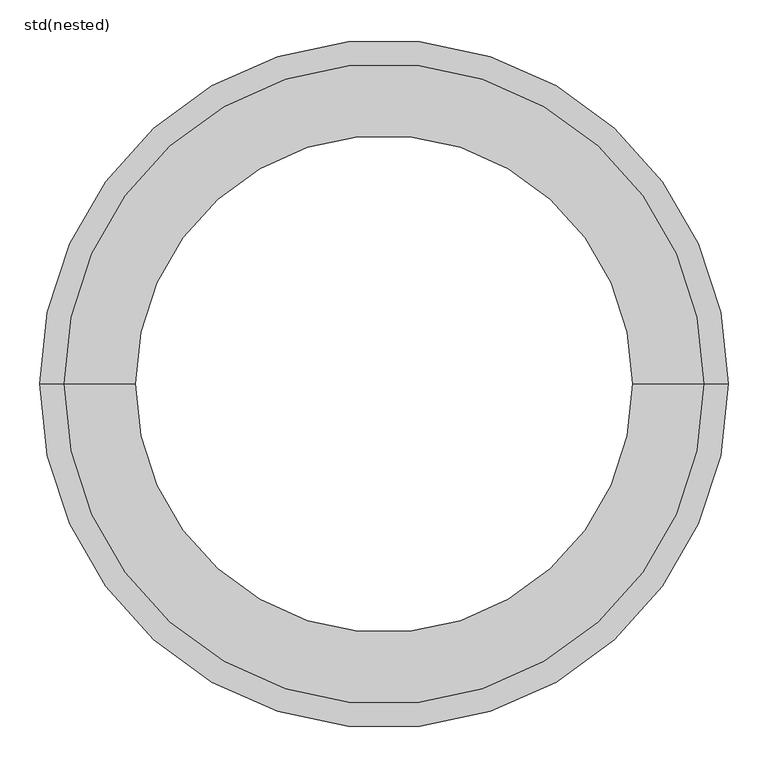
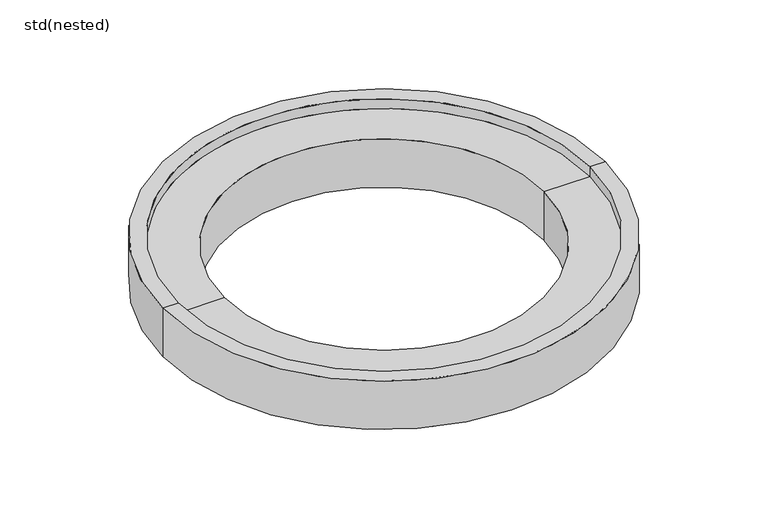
"""IFC4 building model written with IfcOpenShell, lengths in millimetres: unitary equipment geometry, ZZZ_do not use_ME_UN_concrete_bearing ring_ACO : std(nested)."""

from ifc_helpers import new_model, si_unit, frame, origin, place, context, project, spatial, polyline, circle_curve, source, transform, mapped, element, save
from ifc_brep_helpers import plane_surface, cylinder_surface, revolved_surface, advanced_brep


def std_nested_8366b505(model_context):
    return source(origin(), model_context, "Body", "AdvancedBrep", [
        advanced_brep(
        [(402.5, 0.0, -100.0), (-402.5, 0.0, -100.0), (-432.5, 0.0, -100.0), (432.5, 0.0, -100.0), (402.5, 0.0, -120.0), (-402.5, 0.0, -120.0), (312.5, 0.0, -120.0), (-312.5, 0.0, -120.0), (312.5, 0.0, -20.0), (-312.5, 0.0, -20.0), (402.5, 0.0, -20.0), (-402.5, 0.0, -20.0), (402.5, 0.0, 0.0), (-402.5, 0.0, 0.0), (432.5, 0.0, 0.0), (-432.5, 0.0, 0.0)],
        [
            (0, 1, circle_curve(frame((0.0, 0.0, -100.0), z_axis=(0.0, 0.0, 1.0), x_axis=(-1.0, 0.0, 0.0)), 402.5)),
            (1, 2),
            (2, 3, circle_curve(frame((0.0, 0.0, -100.0), z_axis=(0.0, 0.0, -1.0), x_axis=(-1.0, 0.0, 0.0)), 432.5)),
            (3, 0),
            (1, 0, circle_curve(frame((0.0, 0.0, -100.0), z_axis=(0.0, 0.0, 1.0), x_axis=(-1.0, 0.0, 0.0)), 402.5)),
            (3, 2, circle_curve(frame((0.0, 0.0, -100.0), z_axis=(0.0, 0.0, -1.0), x_axis=(-1.0, 0.0, 0.0)), 432.5)),
            (4, 5, circle_curve(frame((0.0, 0.0, -120.0), z_axis=(0.0, 0.0, 1.0), x_axis=(-1.0, 0.0, 0.0)), 402.5)),
            (5, 1),
            (0, 4),
            (5, 4, circle_curve(frame((0.0, 0.0, -120.0), z_axis=(0.0, 0.0, 1.0), x_axis=(-1.0, 0.0, 0.0)), 402.5)),
            (6, 7, circle_curve(frame((0.0, 0.0, -120.0), z_axis=(0.0, 0.0, 1.0), x_axis=(-1.0, 0.0, 0.0)), 312.5)),
            (7, 5),
            (4, 6),
            (7, 6, circle_curve(frame((0.0, 0.0, -120.0), z_axis=(0.0, 0.0, 1.0), x_axis=(-1.0, 0.0, 0.0)), 312.5)),
            (8, 9, circle_curve(frame((0.0, 0.0, -20.0), z_axis=(0.0, 0.0, 1.0), x_axis=(-1.0, 0.0, 0.0)), 312.5)),
            (9, 7),
            (6, 8),
            (9, 8, circle_curve(frame((0.0, 0.0, -20.0), z_axis=(0.0, 0.0, 1.0), x_axis=(-1.0, 0.0, 0.0)), 312.5)),
            (10, 11, circle_curve(frame((0.0, 0.0, -20.0), z_axis=(0.0, 0.0, 1.0), x_axis=(-1.0, 0.0, 0.0)), 402.5)),
            (11, 9),
            (8, 10),
            (11, 10, circle_curve(frame((0.0, 0.0, -20.0), z_axis=(0.0, 0.0, 1.0), x_axis=(-1.0, 0.0, 0.0)), 402.5)),
            (12, 13, circle_curve(frame((0.0, 0.0, 0.0), z_axis=(0.0, 0.0, 1.0), x_axis=(-1.0, 0.0, 0.0)), 402.5)),
            (13, 11),
            (10, 12),
            (13, 12, circle_curve(frame((0.0, 0.0, 0.0), z_axis=(0.0, 0.0, 1.0), x_axis=(-1.0, 0.0, 0.0)), 402.5)),
            (14, 15, circle_curve(frame((0.0, 0.0, 0.0), z_axis=(0.0, 0.0, 1.0), x_axis=(-1.0, 0.0, 0.0)), 432.5)),
            (15, 13),
            (12, 14),
            (15, 14, circle_curve(frame((0.0, 0.0, 0.0), z_axis=(0.0, 0.0, 1.0), x_axis=(-1.0, 0.0, 0.0)), 432.5)),
            (2, 15),
            (14, 3),
        ],
        [
            plane_surface(frame((0.0, 0.0, -100.0), z_axis=(0.0, 0.0, -1.0), x_axis=(-1.0, 0.0, 0.0))),
            cylinder_surface(frame((0.0, 0.0, 0.0), z_axis=(0.0, 0.0, -1.0), x_axis=(-1.0, 0.0, 0.0)), 402.5),
            plane_surface(frame((0.0, 0.0, -120.0), z_axis=(0.0, 0.0, -1.0), x_axis=(-1.0, 0.0, 0.0))),
            revolved_surface(polyline([(-312.5, 0.0, -120.0), (-312.5, 0.0, -20.0)]), (0.0, 0.0, 0.0), (0.0, 0.0, -1.0)),
            plane_surface(frame((0.0, 0.0, -20.0), z_axis=(0.0, 0.0, 1.0), x_axis=(-1.0, 0.0, 0.0))),
            revolved_surface(polyline([(-402.5, 0.0, -20.0), (-402.5, 0.0, 0.0)]), (0.0, 0.0, 0.0), (0.0, 0.0, -1.0)),
            plane_surface(frame((0.0, 0.0, 0.0), z_axis=(0.0, 0.0, 1.0), x_axis=(-1.0, 0.0, 0.0))),
            cylinder_surface(frame((0.0, 0.0, 0.0), z_axis=(0.0, 0.0, -1.0), x_axis=(-1.0, 0.0, 0.0)), 432.5),
        ],
        [
            (0, [[1, 2, 3, 4]]),
            (0, [[5, -4, 6, -2]]),
            (1, [[7, 8, -1, 9]]),
            (1, [[10, -9, -5, -8]]),
            (2, [[11, 12, -7, 13]]),
            (2, [[14, -13, -10, -12]]),
            (3, [[15, 16, -11, 17]]),
            (3, [[18, -17, -14, -16]]),
            (4, [[19, 20, -15, 21]]),
            (4, [[22, -21, -18, -20]]),
            (5, [[23, 24, -19, 25]]),
            (5, [[26, -25, -22, -24]]),
            (6, [[27, 28, -23, 29]]),
            (6, [[30, -29, -26, -28]]),
            (7, [[-3, 31, -27, 32]]),
            (7, [[-6, -32, -30, -31]]),
        ],
    ),
    ])


if __name__ == "__main__":
    model = new_model("IFC4")
    model_context = context("Model", 3, world=origin())
    ifc_project = project(units=[si_unit("LENGTHUNIT", "METRE", prefix="MILLI")], contexts=[model_context])
    site = spatial("IfcSite", under=ifc_project)
    building = spatial("IfcBuilding", under=site)
    placement = place(None, origin())
    std_nested_shape = std_nested_8366b505(model_context)
    element("IfcUnitaryEquipment", 1, ObjectType="ZZZ_do not use_ME_UN_concrete_bearing ring_ACO : std(nested)", at=placement, inside=building, context=model_context, shape_type="MappedRepresentation", body=[
        mapped(std_nested_shape, transform((0.0, 0.0, 0.0), x_axis=(1.0, 0.0, 0.0), y_axis=(0.0, 1.0, 0.0), z_axis=(0.0, 0.0, 1.0))),
    ])
    save(model, "model.ifc")
